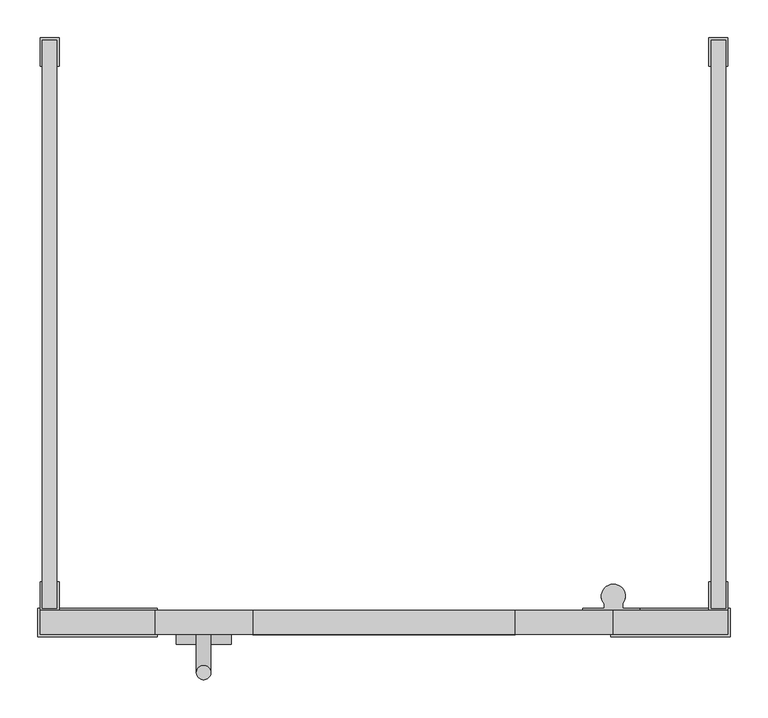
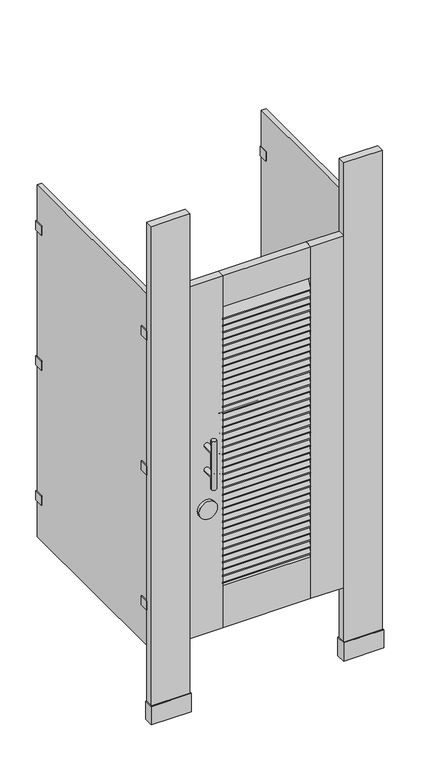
"""IFC4 building model written with IfcOpenShell, lengths in millimetres: proxy geometry."""

from ifc_helpers import new_model, si_unit, point, frame, frame_2d, origin, origin_with_axes, place, context, project, spatial, polyline, circle_curve, ellipse_curve, trimmed, segment, composite_curve, outline, extrude, source, transform, mapped, element, save
from ifc_brep_helpers import plane_surface, cylinder_surface, advanced_brep


def specialty_equipment_d81d8e88(model_context):
    return source(origin(), model_context, "Body", "SolidModel", [
        extrude(outline(polyline([(701.675, -758.825), (701.675, -796.925), (542.925, -796.925), (542.925, -758.825), (701.675, -758.825)])), origin_with_axes(), (0.0, 0.0, 1.0), 76.2),
        extrude(outline(polyline([(698.5, -762.0), (698.5, -793.75), (546.1, -793.75), (546.1, -762.0), (698.5, -762.0)])), origin_with_axes(), (0.0, 0.0, 1.0), 2082.8),
        extrude(outline(polyline([(-219.075, -758.825), (-60.325, -758.825), (-60.325, -796.925), (-219.075, -796.925), (-219.075, -758.825)])), origin_with_axes(), (0.0, 0.0, 1.0), 76.2),
        extrude(outline(polyline([(-215.9, -762.0), (-63.5, -762.0), (-63.5, -793.75), (-215.9, -793.75), (-215.9, -762.0)])), origin_with_axes(), (0.0, 0.0, 1.0), 2082.8),
        extrude(outline(composite_curve([segment(polyline([(-764.1333548, 1605.1687721), (-783.2892514, 1565.8933636)]), True, "CONTINUOUS"), segment(trimmed(circle_curve(frame_2d((-787.5697581, 1567.9811062)), 4.7625), [point((-783.2892514, 1565.8933636))], [point((-791.8502647, 1570.0688488))], False, "CARTESIAN"), True, "CONTINUOUS"), segment(polyline([(-791.8502647, 1570.0688488), (-772.6943681, 1609.3442573)]), True, "CONTINUOUS"), segment(trimmed(circle_curve(frame_2d((-768.4138614, 1607.2565147)), 4.7625), [point((-772.6943681, 1609.3442573))], [point((-764.1333548, 1605.1687721))], False, "CARTESIAN"), True, "CONTINUOUS")], self_intersect=False)), frame((66.675, 0.0, 0.0), z_axis=(1.0, 0.0, 0.0), x_axis=(0.0, 1.0, 0.0)), (0.0, 0.0, 1.0), 349.25),
        extrude(outline(composite_curve([segment(polyline([(-764.1333548, 1576.8525178), (-783.2892514, 1537.5771093)]), True, "CONTINUOUS"), segment(trimmed(circle_curve(frame_2d((-787.5697581, 1539.6648519)), 4.7625), [point((-783.2892514, 1537.5771093))], [point((-791.8502647, 1541.7525944))], False, "CARTESIAN"), True, "CONTINUOUS"), segment(polyline([(-791.8502647, 1541.7525944), (-772.6943681, 1581.0280029)]), True, "CONTINUOUS"), segment(trimmed(circle_curve(frame_2d((-768.4138614, 1578.9402604)), 4.7625), [point((-772.6943681, 1581.0280029))], [point((-764.1333548, 1576.8525178))], False, "CARTESIAN"), True, "CONTINUOUS")], self_intersect=False)), frame((66.675, 0.0, 0.0), z_axis=(1.0, 0.0, 0.0), x_axis=(0.0, 1.0, 0.0)), (0.0, 0.0, 1.0), 349.25),
        extrude(outline(composite_curve([segment(polyline([(-764.1333548, 1548.5362634), (-783.2892514, 1509.2608549)]), True, "CONTINUOUS"), segment(trimmed(circle_curve(frame_2d((-787.5697581, 1511.3485975)), 4.7625), [point((-783.2892514, 1509.2608549))], [point((-791.8502647, 1513.4363401))], False, "CARTESIAN"), True, "CONTINUOUS"), segment(polyline([(-791.8502647, 1513.4363401), (-772.6943681, 1552.7117486)]), True, "CONTINUOUS"), segment(trimmed(circle_curve(frame_2d((-768.4138614, 1550.624006)), 4.7625), [point((-772.6943681, 1552.7117486))], [point((-764.1333548, 1548.5362634))], False, "CARTESIAN"), True, "CONTINUOUS")], self_intersect=False)), frame((66.675, 0.0, 0.0), z_axis=(1.0, 0.0, 0.0), x_axis=(0.0, 1.0, 0.0)), (0.0, 0.0, 1.0), 349.25),
        extrude(outline(composite_curve([segment(polyline([(-764.1333548, 1520.220009), (-783.2892514, 1480.9446005)]), True, "CONTINUOUS"), segment(trimmed(circle_curve(frame_2d((-787.5697581, 1483.0323431)), 4.7625), [point((-783.2892514, 1480.9446005))], [point((-791.8502647, 1485.1200857))], False, "CARTESIAN"), True, "CONTINUOUS"), segment(polyline([(-791.8502647, 1485.1200857), (-772.6943681, 1524.3954942)]), True, "CONTINUOUS"), segment(trimmed(circle_curve(frame_2d((-768.4138614, 1522.3077516)), 4.7625), [point((-772.6943681, 1524.3954942))], [point((-764.1333548, 1520.220009))], False, "CARTESIAN"), True, "CONTINUOUS")], self_intersect=False)), frame((66.675, 0.0, 0.0), z_axis=(1.0, 0.0, 0.0), x_axis=(0.0, 1.0, 0.0)), (0.0, 0.0, 1.0), 349.25),
        extrude(outline(composite_curve([segment(polyline([(-764.1333548, 1491.9037547), (-783.2892514, 1452.6283462)]), True, "CONTINUOUS"), segment(trimmed(circle_curve(frame_2d((-787.5697581, 1454.7160888)), 4.7625), [point((-783.2892514, 1452.6283462))], [point((-791.8502647, 1456.8038313))], False, "CARTESIAN"), True, "CONTINUOUS"), segment(polyline([(-791.8502647, 1456.8038313), (-772.6943681, 1496.0792398)]), True, "CONTINUOUS"), segment(trimmed(circle_curve(frame_2d((-768.4138614, 1493.9914973)), 4.7625), [point((-772.6943681, 1496.0792398))], [point((-764.1333548, 1491.9037547))], False, "CARTESIAN"), True, "CONTINUOUS")], self_intersect=False)), frame((66.675, 0.0, 0.0), z_axis=(1.0, 0.0, 0.0), x_axis=(0.0, 1.0, 0.0)), (0.0, 0.0, 1.0), 349.25),
        extrude(outline(composite_curve([segment(polyline([(-764.1333548, 1463.5875003), (-783.2892514, 1424.3120918)]), True, "CONTINUOUS"), segment(trimmed(circle_curve(frame_2d((-787.5697581, 1426.3998344)), 4.7625), [point((-783.2892514, 1424.3120918))], [point((-791.8502647, 1428.487577))], False, "CARTESIAN"), True, "CONTINUOUS"), segment(polyline([(-791.8502647, 1428.487577), (-772.6943681, 1467.7629855)]), True, "CONTINUOUS"), segment(trimmed(circle_curve(frame_2d((-768.4138614, 1465.6752429)), 4.7625), [point((-772.6943681, 1467.7629855))], [point((-764.1333548, 1463.5875003))], False, "CARTESIAN"), True, "CONTINUOUS")], self_intersect=False)), frame((66.675, 0.0, 0.0), z_axis=(1.0, 0.0, 0.0), x_axis=(0.0, 1.0, 0.0)), (0.0, 0.0, 1.0), 349.25),
        extrude(outline(composite_curve([segment(polyline([(-764.1333548, 1435.2712459), (-783.2892514, 1395.9958374)]), True, "CONTINUOUS"), segment(trimmed(circle_curve(frame_2d((-787.5697581, 1398.08358)), 4.7625), [point((-783.2892514, 1395.9958374))], [point((-791.8502647, 1400.1713226))], False, "CARTESIAN"), True, "CONTINUOUS"), segment(polyline([(-791.8502647, 1400.1713226), (-772.6943681, 1439.4467311)]), True, "CONTINUOUS"), segment(trimmed(circle_curve(frame_2d((-768.4138614, 1437.3589885)), 4.7625), [point((-772.6943681, 1439.4467311))], [point((-764.1333548, 1435.2712459))], False, "CARTESIAN"), True, "CONTINUOUS")], self_intersect=False)), frame((66.675, 0.0, 0.0), z_axis=(1.0, 0.0, 0.0), x_axis=(0.0, 1.0, 0.0)), (0.0, 0.0, 1.0), 349.25),
        extrude(outline(composite_curve([segment(polyline([(-764.1333548, 1406.9549916), (-783.2892514, 1367.6795831)]), True, "CONTINUOUS"), segment(trimmed(circle_curve(frame_2d((-787.5697581, 1369.7673257)), 4.7625), [point((-783.2892514, 1367.6795831))], [point((-791.8502647, 1371.8550682))], False, "CARTESIAN"), True, "CONTINUOUS"), segment(polyline([(-791.8502647, 1371.8550682), (-772.6943681, 1411.1304767)]), True, "CONTINUOUS"), segment(trimmed(circle_curve(frame_2d((-768.4138614, 1409.0427342)), 4.7625), [point((-772.6943681, 1411.1304767))], [point((-764.1333548, 1406.9549916))], False, "CARTESIAN"), True, "CONTINUOUS")], self_intersect=False)), frame((66.675, 0.0, 0.0), z_axis=(1.0, 0.0, 0.0), x_axis=(0.0, 1.0, 0.0)), (0.0, 0.0, 1.0), 349.25),
        extrude(outline(composite_curve([segment(polyline([(-764.1333548, 1378.6387372), (-783.2892514, 1339.3633287)]), True, "CONTINUOUS"), segment(trimmed(circle_curve(frame_2d((-787.5697581, 1341.4510713)), 4.7625), [point((-783.2892514, 1339.3633287))], [point((-791.8502647, 1343.5388139))], False, "CARTESIAN"), True, "CONTINUOUS"), segment(polyline([(-791.8502647, 1343.5388139), (-772.6943681, 1382.8142224)]), True, "CONTINUOUS"), segment(trimmed(circle_curve(frame_2d((-768.4138614, 1380.7264798)), 4.7625), [point((-772.6943681, 1382.8142224))], [point((-764.1333548, 1378.6387372))], False, "CARTESIAN"), True, "CONTINUOUS")], self_intersect=False)), frame((66.675, 0.0, 0.0), z_axis=(1.0, 0.0, 0.0), x_axis=(0.0, 1.0, 0.0)), (0.0, 0.0, 1.0), 349.25),
        extrude(outline(composite_curve([segment(polyline([(-764.1333548, 1350.3224828), (-783.2892514, 1311.0470743)]), True, "CONTINUOUS"), segment(trimmed(circle_curve(frame_2d((-787.5697581, 1313.1348169)), 4.7625), [point((-783.2892514, 1311.0470743))], [point((-791.8502647, 1315.2225595))], False, "CARTESIAN"), True, "CONTINUOUS"), segment(polyline([(-791.8502647, 1315.2225595), (-772.6943681, 1354.497968)]), True, "CONTINUOUS"), segment(trimmed(circle_curve(frame_2d((-768.4138614, 1352.4102254)), 4.7625), [point((-772.6943681, 1354.497968))], [point((-764.1333548, 1350.3224828))], False, "CARTESIAN"), True, "CONTINUOUS")], self_intersect=False)), frame((66.675, 0.0, 0.0), z_axis=(1.0, 0.0, 0.0), x_axis=(0.0, 1.0, 0.0)), (0.0, 0.0, 1.0), 349.25),
        extrude(outline(composite_curve([segment(polyline([(-764.1333548, 1322.0062285), (-783.2892514, 1282.73082)]), True, "CONTINUOUS"), segment(trimmed(circle_curve(frame_2d((-787.5697581, 1284.8185626)), 4.7625), [point((-783.2892514, 1282.73082))], [point((-791.8502647, 1286.9063052))], False, "CARTESIAN"), True, "CONTINUOUS"), segment(polyline([(-791.8502647, 1286.9063052), (-772.6943681, 1326.1817137)]), True, "CONTINUOUS"), segment(trimmed(circle_curve(frame_2d((-768.4138614, 1324.0939711)), 4.7625), [point((-772.6943681, 1326.1817137))], [point((-764.1333548, 1322.0062285))], False, "CARTESIAN"), True, "CONTINUOUS")], self_intersect=False)), frame((66.675, 0.0, 0.0), z_axis=(1.0, 0.0, 0.0), x_axis=(0.0, 1.0, 0.0)), (0.0, 0.0, 1.0), 349.25),
        extrude(outline(composite_curve([segment(polyline([(-764.1333548, 1293.6899741), (-783.2892514, 1254.4145656)]), True, "CONTINUOUS"), segment(trimmed(circle_curve(frame_2d((-787.5697581, 1256.5023082)), 4.7625), [point((-783.2892514, 1254.4145656))], [point((-791.8502647, 1258.5900508))], False, "CARTESIAN"), True, "CONTINUOUS"), segment(polyline([(-791.8502647, 1258.5900508), (-772.6943681, 1297.8654593)]), True, "CONTINUOUS"), segment(trimmed(circle_curve(frame_2d((-768.4138614, 1295.7777167)), 4.7625), [point((-772.6943681, 1297.8654593))], [point((-764.1333548, 1293.6899741))], False, "CARTESIAN"), True, "CONTINUOUS")], self_intersect=False)), frame((66.675, 0.0, 0.0), z_axis=(1.0, 0.0, 0.0), x_axis=(0.0, 1.0, 0.0)), (0.0, 0.0, 1.0), 349.25),
        extrude(outline(composite_curve([segment(polyline([(-764.1333548, 1265.3737197), (-783.2892514, 1226.0983112)]), True, "CONTINUOUS"), segment(trimmed(circle_curve(frame_2d((-787.5697581, 1228.1860538)), 4.7625), [point((-783.2892514, 1226.0983112))], [point((-791.8502647, 1230.2737964))], False, "CARTESIAN"), True, "CONTINUOUS"), segment(polyline([(-791.8502647, 1230.2737964), (-772.6943681, 1269.5492049)]), True, "CONTINUOUS"), segment(trimmed(circle_curve(frame_2d((-768.4138614, 1267.4614623)), 4.7625), [point((-772.6943681, 1269.5492049))], [point((-764.1333548, 1265.3737197))], False, "CARTESIAN"), True, "CONTINUOUS")], self_intersect=False)), frame((66.675, 0.0, 0.0), z_axis=(1.0, 0.0, 0.0), x_axis=(0.0, 1.0, 0.0)), (0.0, 0.0, 1.0), 349.25),
        extrude(outline(composite_curve([segment(polyline([(-764.1333548, 1237.0574654), (-783.2892514, 1197.7820569)]), True, "CONTINUOUS"), segment(trimmed(circle_curve(frame_2d((-787.5697581, 1199.8697995)), 4.7625), [point((-783.2892514, 1197.7820569))], [point((-791.8502647, 1201.9575421))], False, "CARTESIAN"), True, "CONTINUOUS"), segment(polyline([(-791.8502647, 1201.9575421), (-772.6943681, 1241.2329506)]), True, "CONTINUOUS"), segment(trimmed(circle_curve(frame_2d((-768.4138614, 1239.145208)), 4.7625), [point((-772.6943681, 1241.2329506))], [point((-764.1333548, 1237.0574654))], False, "CARTESIAN"), True, "CONTINUOUS")], self_intersect=False)), frame((66.675, 0.0, 0.0), z_axis=(1.0, 0.0, 0.0), x_axis=(0.0, 1.0, 0.0)), (0.0, 0.0, 1.0), 349.25),
        extrude(outline(composite_curve([segment(polyline([(-764.1333548, 1208.741211), (-783.2892514, 1169.4658025)]), True, "CONTINUOUS"), segment(trimmed(circle_curve(frame_2d((-787.5697581, 1171.5535451)), 4.7625), [point((-783.2892514, 1169.4658025))], [point((-791.8502647, 1173.6412877))], False, "CARTESIAN"), True, "CONTINUOUS"), segment(polyline([(-791.8502647, 1173.6412877), (-772.6943681, 1212.9166962)]), True, "CONTINUOUS"), segment(trimmed(circle_curve(frame_2d((-768.4138614, 1210.8289536)), 4.7625), [point((-772.6943681, 1212.9166962))], [point((-764.1333548, 1208.741211))], False, "CARTESIAN"), True, "CONTINUOUS")], self_intersect=False)), frame((66.675, 0.0, 0.0), z_axis=(1.0, 0.0, 0.0), x_axis=(0.0, 1.0, 0.0)), (0.0, 0.0, 1.0), 349.25),
        extrude(outline(composite_curve([segment(polyline([(-764.1333548, 1180.4249567), (-783.2892514, 1141.1495482)]), True, "CONTINUOUS"), segment(trimmed(circle_curve(frame_2d((-787.5697581, 1143.2372907)), 4.7625), [point((-783.2892514, 1141.1495482))], [point((-791.8502647, 1145.3250333))], False, "CARTESIAN"), True, "CONTINUOUS"), segment(polyline([(-791.8502647, 1145.3250333), (-772.6943681, 1184.6004418)]), True, "CONTINUOUS"), segment(trimmed(circle_curve(frame_2d((-768.4138614, 1182.5126992)), 4.7625), [point((-772.6943681, 1184.6004418))], [point((-764.1333548, 1180.4249567))], False, "CARTESIAN"), True, "CONTINUOUS")], self_intersect=False)), frame((66.675, 0.0, 0.0), z_axis=(1.0, 0.0, 0.0), x_axis=(0.0, 1.0, 0.0)), (0.0, 0.0, 1.0), 349.25),
        extrude(outline(composite_curve([segment(polyline([(-764.1333548, 1152.1087023), (-783.2892514, 1112.8332938)]), True, "CONTINUOUS"), segment(trimmed(circle_curve(frame_2d((-787.5697581, 1114.9210364)), 4.7625), [point((-783.2892514, 1112.8332938))], [point((-791.8502647, 1117.008779))], False, "CARTESIAN"), True, "CONTINUOUS"), segment(polyline([(-791.8502647, 1117.008779), (-772.6943681, 1156.2841875)]), True, "CONTINUOUS"), segment(trimmed(circle_curve(frame_2d((-768.4138614, 1154.1964449)), 4.7625), [point((-772.6943681, 1156.2841875))], [point((-764.1333548, 1152.1087023))], False, "CARTESIAN"), True, "CONTINUOUS")], self_intersect=False)), frame((66.675, 0.0, 0.0), z_axis=(1.0, 0.0, 0.0), x_axis=(0.0, 1.0, 0.0)), (0.0, 0.0, 1.0), 349.25),
        extrude(outline(composite_curve([segment(polyline([(-764.1333548, 1123.7924479), (-783.2892514, 1084.5170394)]), True, "CONTINUOUS"), segment(trimmed(circle_curve(frame_2d((-787.5697581, 1086.604782)), 4.7625), [point((-783.2892514, 1084.5170394))], [point((-791.8502647, 1088.6925246))], False, "CARTESIAN"), True, "CONTINUOUS"), segment(polyline([(-791.8502647, 1088.6925246), (-772.6943681, 1127.9679331)]), True, "CONTINUOUS"), segment(trimmed(circle_curve(frame_2d((-768.4138614, 1125.8801905)), 4.7625), [point((-772.6943681, 1127.9679331))], [point((-764.1333548, 1123.7924479))], False, "CARTESIAN"), True, "CONTINUOUS")], self_intersect=False)), frame((66.675, 0.0, 0.0), z_axis=(1.0, 0.0, 0.0), x_axis=(0.0, 1.0, 0.0)), (0.0, 0.0, 1.0), 349.25),
        extrude(outline(composite_curve([segment(polyline([(-764.1333548, 1095.4761936), (-783.2892514, 1056.2007851)]), True, "CONTINUOUS"), segment(trimmed(circle_curve(frame_2d((-787.5697581, 1058.2885276)), 4.7625), [point((-783.2892514, 1056.2007851))], [point((-791.8502647, 1060.3762702))], False, "CARTESIAN"), True, "CONTINUOUS"), segment(polyline([(-791.8502647, 1060.3762702), (-772.6943681, 1099.6516787)]), True, "CONTINUOUS"), segment(trimmed(circle_curve(frame_2d((-768.4138614, 1097.5639361)), 4.7625), [point((-772.6943681, 1099.6516787))], [point((-764.1333548, 1095.4761936))], False, "CARTESIAN"), True, "CONTINUOUS")], self_intersect=False)), frame((66.675, 0.0, 0.0), z_axis=(1.0, 0.0, 0.0), x_axis=(0.0, 1.0, 0.0)), (0.0, 0.0, 1.0), 349.25),
        extrude(outline(composite_curve([segment(polyline([(-764.1333548, 1067.1599392), (-783.2892514, 1027.8845307)]), True, "CONTINUOUS"), segment(trimmed(circle_curve(frame_2d((-787.5697581, 1029.9722733)), 4.7625), [point((-783.2892514, 1027.8845307))], [point((-791.8502647, 1032.0600159))], False, "CARTESIAN"), True, "CONTINUOUS"), segment(polyline([(-791.8502647, 1032.0600159), (-772.6943681, 1071.3354244)]), True, "CONTINUOUS"), segment(trimmed(circle_curve(frame_2d((-768.4138614, 1069.2476818)), 4.7625), [point((-772.6943681, 1071.3354244))], [point((-764.1333548, 1067.1599392))], False, "CARTESIAN"), True, "CONTINUOUS")], self_intersect=False)), frame((66.675, 0.0, 0.0), z_axis=(1.0, 0.0, 0.0), x_axis=(0.0, 1.0, 0.0)), (0.0, 0.0, 1.0), 349.25),
        extrude(outline(composite_curve([segment(polyline([(-764.1333548, 1038.8436848), (-783.2892514, 999.5682763)]), True, "CONTINUOUS"), segment(trimmed(circle_curve(frame_2d((-787.5697581, 1001.6560189)), 4.7625), [point((-783.2892514, 999.5682763))], [point((-791.8502647, 1003.7437615))], False, "CARTESIAN"), True, "CONTINUOUS"), segment(polyline([(-791.8502647, 1003.7437615), (-772.6943681, 1043.01917)]), True, "CONTINUOUS"), segment(trimmed(circle_curve(frame_2d((-768.4138614, 1040.9314274)), 4.7625), [point((-772.6943681, 1043.01917))], [point((-764.1333548, 1038.8436848))], False, "CARTESIAN"), True, "CONTINUOUS")], self_intersect=False)), frame((66.675, 0.0, 0.0), z_axis=(1.0, 0.0, 0.0), x_axis=(0.0, 1.0, 0.0)), (0.0, 0.0, 1.0), 349.25),
        extrude(outline(composite_curve([segment(polyline([(-764.1333548, 1010.5274305), (-783.2892514, 971.252022)]), True, "CONTINUOUS"), segment(trimmed(circle_curve(frame_2d((-787.5697581, 973.3397645)), 4.7625), [point((-783.2892514, 971.252022))], [point((-791.8502647, 975.4275071))], False, "CARTESIAN"), True, "CONTINUOUS"), segment(polyline([(-791.8502647, 975.4275071), (-772.6943681, 1014.7029156)]), True, "CONTINUOUS"), segment(trimmed(circle_curve(frame_2d((-768.4138614, 1012.615173)), 4.7625), [point((-772.6943681, 1014.7029156))], [point((-764.1333548, 1010.5274305))], False, "CARTESIAN"), True, "CONTINUOUS")], self_intersect=False)), frame((66.675, 0.0, 0.0), z_axis=(1.0, 0.0, 0.0), x_axis=(0.0, 1.0, 0.0)), (0.0, 0.0, 1.0), 349.25),
        extrude(outline(composite_curve([segment(polyline([(-764.1333548, 982.2111761), (-783.2892514, 942.9357676)]), True, "CONTINUOUS"), segment(trimmed(circle_curve(frame_2d((-787.5697581, 945.0235102)), 4.7625), [point((-783.2892514, 942.9357676))], [point((-791.8502647, 947.1112528))], False, "CARTESIAN"), True, "CONTINUOUS"), segment(polyline([(-791.8502647, 947.1112528), (-772.6943681, 986.3866613)]), True, "CONTINUOUS"), segment(trimmed(circle_curve(frame_2d((-768.4138614, 984.2989187)), 4.7625), [point((-772.6943681, 986.3866613))], [point((-764.1333548, 982.2111761))], False, "CARTESIAN"), True, "CONTINUOUS")], self_intersect=False)), frame((66.675, 0.0, 0.0), z_axis=(1.0, 0.0, 0.0), x_axis=(0.0, 1.0, 0.0)), (0.0, 0.0, 1.0), 349.25),
        extrude(outline(composite_curve([segment(polyline([(-764.1333548, 953.8949217), (-783.2892514, 914.6195132)]), True, "CONTINUOUS"), segment(trimmed(circle_curve(frame_2d((-787.5697581, 916.7072558)), 4.7625), [point((-783.2892514, 914.6195132))], [point((-791.8502647, 918.7949984))], False, "CARTESIAN"), True, "CONTINUOUS"), segment(polyline([(-791.8502647, 918.7949984), (-772.6943681, 958.0704069)]), True, "CONTINUOUS"), segment(trimmed(circle_curve(frame_2d((-768.4138614, 955.9826643)), 4.7625), [point((-772.6943681, 958.0704069))], [point((-764.1333548, 953.8949217))], False, "CARTESIAN"), True, "CONTINUOUS")], self_intersect=False)), frame((66.675, 0.0, 0.0), z_axis=(1.0, 0.0, 0.0), x_axis=(0.0, 1.0, 0.0)), (0.0, 0.0, 1.0), 349.25),
        extrude(outline(composite_curve([segment(polyline([(-764.1333548, 925.5786674), (-783.2892514, 886.3032589)]), True, "CONTINUOUS"), segment(trimmed(circle_curve(frame_2d((-787.5697581, 888.3910014)), 4.7625), [point((-783.2892514, 886.3032589))], [point((-791.8502647, 890.478744))], False, "CARTESIAN"), True, "CONTINUOUS"), segment(polyline([(-791.8502647, 890.478744), (-772.6943681, 929.7541525)]), True, "CONTINUOUS"), segment(trimmed(circle_curve(frame_2d((-768.4138614, 927.6664099)), 4.7625), [point((-772.6943681, 929.7541525))], [point((-764.1333548, 925.5786674))], False, "CARTESIAN"), True, "CONTINUOUS")], self_intersect=False)), frame((66.675, 0.0, 0.0), z_axis=(1.0, 0.0, 0.0), x_axis=(0.0, 1.0, 0.0)), (0.0, 0.0, 1.0), 349.25),
        extrude(outline(composite_curve([segment(polyline([(-764.1333548, 897.262413), (-783.2892514, 857.9870045)]), True, "CONTINUOUS"), segment(trimmed(circle_curve(frame_2d((-787.5697581, 860.0747471)), 4.7625), [point((-783.2892514, 857.9870045))], [point((-791.8502647, 862.1624897))], False, "CARTESIAN"), True, "CONTINUOUS"), segment(polyline([(-791.8502647, 862.1624897), (-772.6943681, 901.4378982)]), True, "CONTINUOUS"), segment(trimmed(circle_curve(frame_2d((-768.4138614, 899.3501556)), 4.7625), [point((-772.6943681, 901.4378982))], [point((-764.1333548, 897.262413))], False, "CARTESIAN"), True, "CONTINUOUS")], self_intersect=False)), frame((66.675, 0.0, 0.0), z_axis=(1.0, 0.0, 0.0), x_axis=(0.0, 1.0, 0.0)), (0.0, 0.0, 1.0), 349.25),
        extrude(outline(composite_curve([segment(polyline([(-764.1333548, 868.9461586), (-783.2892514, 829.6707501)]), True, "CONTINUOUS"), segment(trimmed(circle_curve(frame_2d((-787.5697581, 831.7584927)), 4.7625), [point((-783.2892514, 829.6707501))], [point((-791.8502647, 833.8462353))], False, "CARTESIAN"), True, "CONTINUOUS"), segment(polyline([(-791.8502647, 833.8462353), (-772.6943681, 873.1216438)]), True, "CONTINUOUS"), segment(trimmed(circle_curve(frame_2d((-768.4138614, 871.0339012)), 4.7625), [point((-772.6943681, 873.1216438))], [point((-764.1333548, 868.9461586))], False, "CARTESIAN"), True, "CONTINUOUS")], self_intersect=False)), frame((66.675, 0.0, 0.0), z_axis=(1.0, 0.0, 0.0), x_axis=(0.0, 1.0, 0.0)), (0.0, 0.0, 1.0), 349.25),
        extrude(outline(composite_curve([segment(polyline([(-764.1333548, 840.6299043), (-783.2892514, 801.3544958)]), True, "CONTINUOUS"), segment(trimmed(circle_curve(frame_2d((-787.5697581, 803.4422384)), 4.7625), [point((-783.2892514, 801.3544958))], [point((-791.8502647, 805.5299809))], False, "CARTESIAN"), True, "CONTINUOUS"), segment(polyline([(-791.8502647, 805.5299809), (-772.6943681, 844.8053894)]), True, "CONTINUOUS"), segment(trimmed(circle_curve(frame_2d((-768.4138614, 842.7176469)), 4.7625), [point((-772.6943681, 844.8053894))], [point((-764.1333548, 840.6299043))], False, "CARTESIAN"), True, "CONTINUOUS")], self_intersect=False)), frame((66.675, 0.0, 0.0), z_axis=(1.0, 0.0, 0.0), x_axis=(0.0, 1.0, 0.0)), (0.0, 0.0, 1.0), 349.25),
        extrude(outline(composite_curve([segment(polyline([(-764.1333548, 812.3136499), (-783.2892514, 773.0382414)]), True, "CONTINUOUS"), segment(trimmed(circle_curve(frame_2d((-787.5697581, 775.125984)), 4.7625), [point((-783.2892514, 773.0382414))], [point((-791.8502647, 777.2137266))], False, "CARTESIAN"), True, "CONTINUOUS"), segment(polyline([(-791.8502647, 777.2137266), (-772.6943681, 816.4891351)]), True, "CONTINUOUS"), segment(trimmed(circle_curve(frame_2d((-768.4138614, 814.4013925)), 4.7625), [point((-772.6943681, 816.4891351))], [point((-764.1333548, 812.3136499))], False, "CARTESIAN"), True, "CONTINUOUS")], self_intersect=False)), frame((66.675, 0.0, 0.0), z_axis=(1.0, 0.0, 0.0), x_axis=(0.0, 1.0, 0.0)), (0.0, 0.0, 1.0), 349.25),
        extrude(outline(composite_curve([segment(polyline([(-764.1333548, 783.9973955), (-783.2892514, 744.721987)]), True, "CONTINUOUS"), segment(trimmed(circle_curve(frame_2d((-787.5697581, 746.8097296)), 4.7625), [point((-783.2892514, 744.721987))], [point((-791.8502647, 748.8974722))], False, "CARTESIAN"), True, "CONTINUOUS"), segment(polyline([(-791.8502647, 748.8974722), (-772.6943681, 788.1728807)]), True, "CONTINUOUS"), segment(trimmed(circle_curve(frame_2d((-768.4138614, 786.0851381)), 4.7625), [point((-772.6943681, 788.1728807))], [point((-764.1333548, 783.9973955))], False, "CARTESIAN"), True, "CONTINUOUS")], self_intersect=False)), frame((66.675, 0.0, 0.0), z_axis=(1.0, 0.0, 0.0), x_axis=(0.0, 1.0, 0.0)), (0.0, 0.0, 1.0), 349.25),
        extrude(outline(composite_curve([segment(polyline([(-764.1333548, 755.6811412), (-783.2892514, 716.4057327)]), True, "CONTINUOUS"), segment(trimmed(circle_curve(frame_2d((-787.5697581, 718.4934753)), 4.7625), [point((-783.2892514, 716.4057327))], [point((-791.8502647, 720.5812178))], False, "CARTESIAN"), True, "CONTINUOUS"), segment(polyline([(-791.8502647, 720.5812178), (-772.6943681, 759.8566263)]), True, "CONTINUOUS"), segment(trimmed(circle_curve(frame_2d((-768.4138614, 757.7688838)), 4.7625), [point((-772.6943681, 759.8566263))], [point((-764.1333548, 755.6811412))], False, "CARTESIAN"), True, "CONTINUOUS")], self_intersect=False)), frame((66.675, 0.0, 0.0), z_axis=(1.0, 0.0, 0.0), x_axis=(0.0, 1.0, 0.0)), (0.0, 0.0, 1.0), 349.25),
        extrude(outline(composite_curve([segment(polyline([(-764.1333548, 727.3648868), (-783.2892514, 688.0894783)]), True, "CONTINUOUS"), segment(trimmed(circle_curve(frame_2d((-787.5697581, 690.1772209)), 4.7625), [point((-783.2892514, 688.0894783))], [point((-791.8502647, 692.2649635))], False, "CARTESIAN"), True, "CONTINUOUS"), segment(polyline([(-791.8502647, 692.2649635), (-772.6943681, 731.540372)]), True, "CONTINUOUS"), segment(trimmed(circle_curve(frame_2d((-768.4138614, 729.4526294)), 4.7625), [point((-772.6943681, 731.540372))], [point((-764.1333548, 727.3648868))], False, "CARTESIAN"), True, "CONTINUOUS")], self_intersect=False)), frame((66.675, 0.0, 0.0), z_axis=(1.0, 0.0, 0.0), x_axis=(0.0, 1.0, 0.0)), (0.0, 0.0, 1.0), 349.25),
        extrude(outline(composite_curve([segment(polyline([(-764.1333548, 699.0486324), (-783.2892514, 659.7732239)]), True, "CONTINUOUS"), segment(trimmed(circle_curve(frame_2d((-787.5697581, 661.8609665)), 4.7625), [point((-783.2892514, 659.7732239))], [point((-791.8502647, 663.9487091))], False, "CARTESIAN"), True, "CONTINUOUS"), segment(polyline([(-791.8502647, 663.9487091), (-772.6943681, 703.2241176)]), True, "CONTINUOUS"), segment(trimmed(circle_curve(frame_2d((-768.4138614, 701.136375)), 4.7625), [point((-772.6943681, 703.2241176))], [point((-764.1333548, 699.0486324))], False, "CARTESIAN"), True, "CONTINUOUS")], self_intersect=False)), frame((66.675, 0.0, 0.0), z_axis=(1.0, 0.0, 0.0), x_axis=(0.0, 1.0, 0.0)), (0.0, 0.0, 1.0), 349.25),
        extrude(outline(composite_curve([segment(polyline([(-764.1333548, 670.7323781), (-783.2892514, 631.4569696)]), True, "CONTINUOUS"), segment(trimmed(circle_curve(frame_2d((-787.5697581, 633.5447122)), 4.7625), [point((-783.2892514, 631.4569696))], [point((-791.8502647, 635.6324547))], False, "CARTESIAN"), True, "CONTINUOUS"), segment(polyline([(-791.8502647, 635.6324547), (-772.6943681, 674.9078632)]), True, "CONTINUOUS"), segment(trimmed(circle_curve(frame_2d((-768.4138614, 672.8201207)), 4.7625), [point((-772.6943681, 674.9078632))], [point((-764.1333548, 670.7323781))], False, "CARTESIAN"), True, "CONTINUOUS")], self_intersect=False)), frame((66.675, 0.0, 0.0), z_axis=(1.0, 0.0, 0.0), x_axis=(0.0, 1.0, 0.0)), (0.0, 0.0, 1.0), 349.25),
        extrude(outline(composite_curve([segment(polyline([(-764.1333548, 642.4161237), (-783.2892514, 603.1407152)]), True, "CONTINUOUS"), segment(trimmed(circle_curve(frame_2d((-787.5697581, 605.2284578)), 4.7625), [point((-783.2892514, 603.1407152))], [point((-791.8502647, 607.3162004))], False, "CARTESIAN"), True, "CONTINUOUS"), segment(polyline([(-791.8502647, 607.3162004), (-772.6943681, 646.5916089)]), True, "CONTINUOUS"), segment(trimmed(circle_curve(frame_2d((-768.4138614, 644.5038663)), 4.7625), [point((-772.6943681, 646.5916089))], [point((-764.1333548, 642.4161237))], False, "CARTESIAN"), True, "CONTINUOUS")], self_intersect=False)), frame((66.675, 0.0, 0.0), z_axis=(1.0, 0.0, 0.0), x_axis=(0.0, 1.0, 0.0)), (0.0, 0.0, 1.0), 349.25),
        extrude(outline(composite_curve([segment(polyline([(-764.1333548, 614.0998693), (-783.2892514, 574.8244608)]), True, "CONTINUOUS"), segment(trimmed(circle_curve(frame_2d((-787.5697581, 576.9122034)), 4.7625), [point((-783.2892514, 574.8244608))], [point((-791.8502647, 578.999946))], False, "CARTESIAN"), True, "CONTINUOUS"), segment(polyline([(-791.8502647, 578.999946), (-772.6943681, 618.2753545)]), True, "CONTINUOUS"), segment(trimmed(circle_curve(frame_2d((-768.4138614, 616.1876119)), 4.7625), [point((-772.6943681, 618.2753545))], [point((-764.1333548, 614.0998693))], False, "CARTESIAN"), True, "CONTINUOUS")], self_intersect=False)), frame((66.675, 0.0, 0.0), z_axis=(1.0, 0.0, 0.0), x_axis=(0.0, 1.0, 0.0)), (0.0, 0.0, 1.0), 349.25),
        extrude(outline(composite_curve([segment(polyline([(-764.1333548, 585.783615), (-783.2892514, 546.5082065)]), True, "CONTINUOUS"), segment(trimmed(circle_curve(frame_2d((-787.5697581, 548.5959491)), 4.7625), [point((-783.2892514, 546.5082065))], [point((-791.8502647, 550.6836917))], False, "CARTESIAN"), True, "CONTINUOUS"), segment(polyline([(-791.8502647, 550.6836917), (-772.6943681, 589.9591001)]), True, "CONTINUOUS"), segment(trimmed(circle_curve(frame_2d((-768.4138614, 587.8713576)), 4.7625), [point((-772.6943681, 589.9591001))], [point((-764.1333548, 585.783615))], False, "CARTESIAN"), True, "CONTINUOUS")], self_intersect=False)), frame((66.675, 0.0, 0.0), z_axis=(1.0, 0.0, 0.0), x_axis=(0.0, 1.0, 0.0)), (0.0, 0.0, 1.0), 349.25),
        extrude(outline(composite_curve([segment(polyline([(-764.1333548, 557.4673606), (-783.2892514, 518.1919521)]), True, "CONTINUOUS"), segment(trimmed(circle_curve(frame_2d((-787.5697581, 520.2796947)), 4.7625), [point((-783.2892514, 518.1919521))], [point((-791.8502647, 522.3674373))], False, "CARTESIAN"), True, "CONTINUOUS"), segment(polyline([(-791.8502647, 522.3674373), (-772.6943681, 561.6428458)]), True, "CONTINUOUS"), segment(trimmed(circle_curve(frame_2d((-768.4138614, 559.5551032)), 4.7625), [point((-772.6943681, 561.6428458))], [point((-764.1333548, 557.4673606))], False, "CARTESIAN"), True, "CONTINUOUS")], self_intersect=False)), frame((66.675, 0.0, 0.0), z_axis=(1.0, 0.0, 0.0), x_axis=(0.0, 1.0, 0.0)), (0.0, 0.0, 1.0), 349.25),
        extrude(outline(composite_curve([segment(polyline([(-764.1333548, 1633.4850265), (-783.2892514, 1594.209618)]), True, "CONTINUOUS"), segment(trimmed(circle_curve(frame_2d((-787.5697581, 1596.2973606)), 4.7625), [point((-783.2892514, 1594.209618))], [point((-791.8502647, 1598.3851032))], False, "CARTESIAN"), True, "CONTINUOUS"), segment(polyline([(-791.8502647, 1598.3851032), (-772.6943681, 1637.6605117)]), True, "CONTINUOUS"), segment(trimmed(circle_curve(frame_2d((-768.4138614, 1635.5727691)), 4.7625), [point((-772.6943681, 1637.6605117))], [point((-764.1333548, 1633.4850265))], False, "CARTESIAN"), True, "CONTINUOUS")], self_intersect=False)), frame((66.675, 0.0, 0.0), z_axis=(1.0, 0.0, 0.0), x_axis=(0.0, 1.0, 0.0)), (0.0, 0.0, 1.0), 349.25),
        extrude(outline(composite_curve([segment(polyline([(-764.1333548, 529.1511062), (-783.2892514, 489.8756977)]), True, "CONTINUOUS"), segment(trimmed(circle_curve(frame_2d((-787.5697581, 491.9634403)), 4.7625), [point((-783.2892514, 489.8756977))], [point((-791.8502647, 494.0511829))], False, "CARTESIAN"), True, "CONTINUOUS"), segment(polyline([(-791.8502647, 494.0511829), (-772.6943681, 533.3265914)]), True, "CONTINUOUS"), segment(trimmed(circle_curve(frame_2d((-768.4138614, 531.2388488)), 4.7625), [point((-772.6943681, 533.3265914))], [point((-764.1333548, 529.1511062))], False, "CARTESIAN"), True, "CONTINUOUS")], self_intersect=False)), frame((66.675, 0.0, 0.0), z_axis=(1.0, 0.0, 0.0), x_axis=(0.0, 1.0, 0.0)), (0.0, 0.0, 1.0), 349.25),
        extrude(outline(polyline([(66.675, -762.0), (66.675, -793.75), (-63.5, -793.75), (-63.5, -762.0), (66.675, -762.0)])), frame((0.0, 0.0, 304.8), z_axis=(0.0, 0.0, 1.0), x_axis=(1.0, 0.0, 0.0)), (0.0, 0.0, 1.0), 1473.2),
        extrude(outline(polyline([(415.925, -762.0), (546.1, -762.0), (546.1, -793.75), (415.925, -793.75), (415.925, -762.0)])), frame((0.0, 0.0, 304.8), z_axis=(0.0, 0.0, 1.0), x_axis=(1.0, 0.0, 0.0)), (0.0, 0.0, 1.0), 1473.2),
        extrude(outline(polyline([(415.925, -762.0), (415.925, -793.75), (66.675, -793.75), (66.675, -762.0), (415.925, -762.0)])), frame((0.0, 0.0, 1647.825), z_axis=(0.0, 0.0, 1.0), x_axis=(1.0, 0.0, 0.0)), (0.0, 0.0, 1.0), 130.175),
        extrude(outline(polyline([(415.925, -762.0), (415.925, -793.75), (66.675, -793.75), (66.675, -762.0), (415.925, -762.0)])), frame((0.0, 0.0, 304.8), z_axis=(0.0, 0.0, 1.0), x_axis=(1.0, 0.0, 0.0)), (0.0, 0.0, 1.0), 174.625),
        extrude(outline(composite_curve([segment(trimmed(circle_curve(frame_2d((827.0875, 1.5875)), 36.5125), [point((827.0875, -34.925))], [point((827.0875, 38.1))], False, "CARTESIAN"), True, "CONTINUOUS"), segment(trimmed(circle_curve(frame_2d((827.0875, 1.5875)), 36.5125), [point((827.0875, 38.1))], [point((827.0875, -34.925))], False, "CARTESIAN"), True, "CONTINUOUS")], self_intersect=False)), frame((0.0, -806.45, 0.0), z_axis=(0.0, 1.0, 0.0), x_axis=(0.0, 0.0, 1.0)), (0.0, 0.0, 1.0), 12.7),
        advanced_brep(
        [(-7.9375, -793.75, 1092.2), (11.1125, -793.75, 1092.2), (-7.9375, -793.75, 990.6), (11.1125, -793.75, 990.6), (11.1125, -844.55, 1092.2), (-7.9375, -844.55, 1092.2), (11.1125, -844.55, 990.6), (-7.9375, -844.55, 990.6), (-7.9375, -844.55, 1143.0), (11.1125, -844.55, 1143.0), (-7.9375, -844.55, 939.8), (11.1125, -844.55, 939.8)],
        [
            (0, 1, circle_curve(frame((1.5875, -793.75, 1092.2), z_axis=(0.0, 1.0, 0.0), x_axis=(1.0, 0.0, 0.0)), 9.525)),
            (1, 0, circle_curve(frame((1.5875, -793.75, 1092.2), z_axis=(0.0, 1.0, 0.0), x_axis=(1.0, 0.0, 0.0)), 9.525)),
            (2, 3, circle_curve(frame((1.5875, -793.75, 990.6), z_axis=(0.0, 1.0, 0.0), x_axis=(1.0, 0.0, 0.0)), 9.525)),
            (3, 2, circle_curve(frame((1.5875, -793.75, 990.6), z_axis=(0.0, 1.0, 0.0), x_axis=(1.0, 0.0, 0.0)), 9.525)),
            (1, 4),
            (4, 5, ellipse_curve(frame((1.5875, -844.55, 1092.2), z_axis=(0.0, 0.7071067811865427, 0.7071067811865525), x_axis=(0.0, -0.7071067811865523, 0.7071067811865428)), 13.4703842, 9.525)),
            (5, 0),
            (5, 4, ellipse_curve(frame((1.5875, -844.55, 1092.2), z_axis=(0.0, 0.7071067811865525, -0.7071067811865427), x_axis=(0.0, -0.7071067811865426, -0.7071067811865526)), 13.4703842, 9.525)),
            (3, 6),
            (6, 7, ellipse_curve(frame((1.5875, -844.55, 990.6), z_axis=(0.0, 0.7071067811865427, 0.7071067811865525), x_axis=(0.0, -0.7071067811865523, 0.7071067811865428)), 13.4703842, 9.525)),
            (7, 2),
            (7, 6, ellipse_curve(frame((1.5875, -844.55, 990.6), z_axis=(0.0, 0.7071067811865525, -0.7071067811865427), x_axis=(0.0, -0.7071067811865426, -0.7071067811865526)), 13.4703842, 9.525)),
            (8, 9, circle_curve(frame((1.5875, -844.55, 1143.0), z_axis=(0.0, 0.0, 1.0), x_axis=(1.0, 0.0, 0.0)), 9.525)),
            (9, 8, circle_curve(frame((1.5875, -844.55, 1143.0), z_axis=(0.0, 0.0, 1.0), x_axis=(1.0, 0.0, 0.0)), 9.525)),
            (10, 11, circle_curve(frame((1.5875, -844.55, 939.8), z_axis=(0.0, 0.0, -1.0), x_axis=(1.0, 0.0, 0.0)), 9.525)),
            (11, 10, circle_curve(frame((1.5875, -844.55, 939.8), z_axis=(0.0, 0.0, -1.0), x_axis=(1.0, 0.0, 0.0)), 9.525)),
            (8, 5),
            (5, 7),
            (7, 10),
            (11, 6),
            (6, 4),
            (4, 9),
        ],
        [
            plane_surface(frame((11.1125, -793.75, 1092.2), z_axis=(0.0, 1.0, 0.0), x_axis=(0.0, 0.0, -1.0))),
            cylinder_surface(frame((1.5875, -793.75, 1092.2), z_axis=(0.0, -1.0, 0.0), x_axis=(1.0, 0.0, 0.0)), 9.525),
            cylinder_surface(frame((1.5875, -793.75, 990.6), z_axis=(0.0, -1.0, 0.0), x_axis=(1.0, 0.0, 0.0)), 9.525),
            plane_surface(frame((11.1125, -844.55, 1143.0), z_axis=(0.0, 0.0, 1.0), x_axis=(0.0, 1.0, 0.0))),
            plane_surface(frame((11.1125, -844.55, 939.8), z_axis=(0.0, 0.0, -1.0), x_axis=(0.0, -1.0, 0.0))),
            cylinder_surface(frame((1.5875, -844.55, 939.8), z_axis=(0.0, 0.0, 1.0), x_axis=(1.0, 0.0, 0.0)), 9.525),
        ],
        [
            (0, [[1, 2]]),
            (0, [[3, 4]]),
            (1, [[-2, 5, 6, 7]]),
            (1, [[-1, -7, 8, -5]]),
            (2, [[-4, 9, 10, 11]]),
            (2, [[-3, -11, 12, -9]]),
            (3, [[13, 14]]),
            (4, [[15, 16]]),
            (5, [[-13, 17, 18, 19, -16, 20, 21, 22]]),
            (5, [[-14, -22, -8, -17]]),
            (5, [[-15, -19, -10, -20]]),
            (5, [[-18, -6, -21, -12]]),
        ],
    ),
        extrude(outline(composite_curve([segment(polyline([(581.3737081, -762.0), (505.1737081, -762.0), (505.1737081, -758.825), (533.7487081, -758.825), (533.7487081, -752.9581331)]), True, "CONTINUOUS"), segment(trimmed(circle_curve(frame_2d((546.1, -742.8902139)), 15.9347861), [point((533.7487081, -752.9581331))], [point((558.4512919, -752.9581331))], False, "CARTESIAN"), True, "CONTINUOUS"), segment(polyline([(558.4512919, -752.9581331), (558.4512919, -758.825), (581.3737081, -758.825), (581.3737081, -762.0)]), True, "CONTINUOUS")], self_intersect=False)), frame((0.0, 0.0, 1574.8), z_axis=(0.0, 0.0, 1.0), x_axis=(1.0, 0.0, 0.0)), (0.0, 0.0, 1.0), 63.5),
        extrude(outline(composite_curve([segment(polyline([(581.3737081, -762.0), (505.1737081, -762.0), (505.1737081, -758.825), (533.7487081, -758.825), (533.7487081, -752.9581331)]), True, "CONTINUOUS"), segment(trimmed(circle_curve(frame_2d((546.1, -742.8902139)), 15.9347861), [point((533.7487081, -752.9581331))], [point((558.4512919, -752.9581331))], False, "CARTESIAN"), True, "CONTINUOUS"), segment(polyline([(558.4512919, -752.9581331), (558.4512919, -758.825), (581.3737081, -758.825), (581.3737081, -762.0)]), True, "CONTINUOUS")], self_intersect=False)), frame((0.0, 0.0, 1009.6500001), z_axis=(0.0, 0.0, 1.0), x_axis=(1.0, 0.0, 0.0)), (0.0, 0.0, 1.0), 63.5),
        extrude(outline(composite_curve([segment(polyline([(581.3737081, -762.0), (505.1737081, -762.0), (505.1737081, -758.825), (533.7487081, -758.825), (533.7487081, -752.9581331)]), True, "CONTINUOUS"), segment(trimmed(circle_curve(frame_2d((546.1, -742.8902139)), 15.9347861), [point((533.7487081, -752.9581331))], [point((558.4512919, -752.9581331))], False, "CARTESIAN"), True, "CONTINUOUS"), segment(polyline([(558.4512919, -752.9581331), (558.4512919, -758.825), (581.3737081, -758.825), (581.3737081, -762.0)]), True, "CONTINUOUS")], self_intersect=False)), frame((0.0, 0.0, 444.5), z_axis=(0.0, 0.0, 1.0), x_axis=(1.0, 0.0, 0.0)), (0.0, 0.0, 1.0), 63.5),
        extrude(outline(polyline([(676.148, -723.9), (676.148, -758.825), (695.198, -758.825), (695.198, -723.9), (698.373, -723.9), (698.373, -762.0), (672.973, -762.0), (672.973, -723.9), (676.148, -723.9)])), frame((0.0, 0.0, 1587.8188137), z_axis=(0.0, 0.0, 1.0), x_axis=(1.0, 0.0, 0.0)), (0.0, 0.0, 1.0), 38.1),
        extrude(outline(polyline([(676.148, -38.1), (672.973, -38.1), (672.973, 0.0), (698.373, 0.0), (698.373, -38.1), (695.198, -38.1), (695.198, -3.175), (676.148, -3.175), (676.148, -38.1)])), frame((0.0, 0.0, 1587.8188137), z_axis=(0.0, 0.0, 1.0), x_axis=(1.0, 0.0, 0.0)), (0.0, 0.0, 1.0), 38.1),
        extrude(outline(polyline([(676.148, -723.9), (676.148, -758.825), (695.198, -758.825), (695.198, -723.9), (698.373, -723.9), (698.373, -762.0), (672.973, -762.0), (672.973, -723.9), (676.148, -723.9)])), frame((0.0, 0.0, 1022.35), z_axis=(0.0, 0.0, 1.0), x_axis=(1.0, 0.0, 0.0)), (0.0, 0.0, 1.0), 38.1),
        extrude(outline(polyline([(676.148, -38.1), (672.973, -38.1), (672.973, 0.0), (698.373, 0.0), (698.373, -38.1), (695.198, -38.1), (695.198, -3.175), (676.148, -3.175), (676.148, -38.1)])), frame((0.0, 0.0, 1022.35), z_axis=(0.0, 0.0, 1.0), x_axis=(1.0, 0.0, 0.0)), (0.0, 0.0, 1.0), 38.1),
        extrude(outline(polyline([(676.148, -723.9), (676.148, -758.825), (695.198, -758.825), (695.198, -723.9), (698.373, -723.9), (698.373, -762.0), (672.973, -762.0), (672.973, -723.9), (676.148, -723.9)])), frame((0.0, 0.0, 457.2), z_axis=(0.0, 0.0, 1.0), x_axis=(1.0, 0.0, 0.0)), (0.0, 0.0, 1.0), 38.1),
        extrude(outline(polyline([(676.148, -38.1), (672.973, -38.1), (672.973, 0.0), (698.373, 0.0), (698.373, -38.1), (695.198, -38.1), (695.198, -3.175), (676.148, -3.175), (676.148, -38.1)])), frame((0.0, 0.0, 457.2), z_axis=(0.0, 0.0, 1.0), x_axis=(1.0, 0.0, 0.0)), (0.0, 0.0, 1.0), 38.1),
        extrude(outline(polyline([(-212.598, -723.9), (-212.598, -758.825), (-193.548, -758.825), (-193.548, -723.9), (-190.373, -723.9), (-190.373, -762.0), (-215.773, -762.0), (-215.773, -723.9), (-212.598, -723.9)])), frame((0.0, 0.0, 1587.8188137), z_axis=(0.0, 0.0, 1.0), x_axis=(1.0, 0.0, 0.0)), (0.0, 0.0, 1.0), 38.1),
        extrude(outline(polyline([(-212.598, -38.1), (-215.773, -38.1), (-215.773, 0.0), (-190.373, 0.0), (-190.373, -38.1), (-193.548, -38.1), (-193.548, -3.175), (-212.598, -3.175), (-212.598, -38.1)])), frame((0.0, 0.0, 1587.8188137), z_axis=(0.0, 0.0, 1.0), x_axis=(1.0, 0.0, 0.0)), (0.0, 0.0, 1.0), 38.1),
        extrude(outline(polyline([(-212.598, -723.9), (-212.598, -758.825), (-193.548, -758.825), (-193.548, -723.9), (-190.373, -723.9), (-190.373, -762.0), (-215.773, -762.0), (-215.773, -723.9), (-212.598, -723.9)])), frame((0.0, 0.0, 1022.35), z_axis=(0.0, 0.0, 1.0), x_axis=(1.0, 0.0, 0.0)), (0.0, 0.0, 1.0), 38.1),
        extrude(outline(polyline([(-212.598, -38.1), (-215.773, -38.1), (-215.773, 0.0), (-190.373, 0.0), (-190.373, -38.1), (-193.548, -38.1), (-193.548, -3.175), (-212.598, -3.175), (-212.598, -38.1)])), frame((0.0, 0.0, 1022.35), z_axis=(0.0, 0.0, 1.0), x_axis=(1.0, 0.0, 0.0)), (0.0, 0.0, 1.0), 38.1),
        extrude(outline(polyline([(-212.598, -723.9), (-212.598, -758.825), (-193.548, -758.825), (-193.548, -723.9), (-190.373, -723.9), (-190.373, -762.0), (-215.773, -762.0), (-215.773, -723.9), (-212.598, -723.9)])), frame((0.0, 0.0, 457.2), z_axis=(0.0, 0.0, 1.0), x_axis=(1.0, 0.0, 0.0)), (0.0, 0.0, 1.0), 38.1),
        extrude(outline(polyline([(-212.598, -38.1), (-215.773, -38.1), (-215.773, 0.0), (-190.373, 0.0), (-190.373, -38.1), (-193.548, -38.1), (-193.548, -3.175), (-212.598, -3.175), (-212.598, -38.1)])), frame((0.0, 0.0, 457.2), z_axis=(0.0, 0.0, 1.0), x_axis=(1.0, 0.0, 0.0)), (0.0, 0.0, 1.0), 38.1),
        extrude(outline(polyline([(-193.548, -3.175), (-193.548, -758.825), (-212.598, -758.825), (-212.598, -3.175), (-193.548, -3.175)])), frame((0.0, 0.0, 304.8), z_axis=(0.0, 0.0, 1.0), x_axis=(1.0, 0.0, 0.0)), (0.0, 0.0, 1.0), 1473.2),
        extrude(outline(polyline([(695.198, -3.175), (695.198, -758.825), (676.148, -758.825), (676.148, -3.175), (695.198, -3.175)])), frame((0.0, 0.0, 304.8), z_axis=(0.0, 0.0, 1.0), x_axis=(1.0, 0.0, 0.0)), (0.0, 0.0, 1.0), 1473.2),
    ])


if __name__ == "__main__":
    model = new_model("IFC4")
    model_context = context("Model", 3, world=origin())
    ifc_project = project(units=[si_unit("LENGTHUNIT", "METRE", prefix="MILLI")], contexts=[model_context])
    site = spatial("IfcSite", under=ifc_project)
    building = spatial("IfcBuilding", under=site)
    placement = place(None, origin())
    specialty_equipment_shape = specialty_equipment_d81d8e88(model_context)
    element("IfcBuildingElementProxy", 1, Name="Specialty Equipment", at=placement, inside=building, context=model_context, shape_type="MappedRepresentation", body=[
        mapped(specialty_equipment_shape, transform((0.0, 0.0, 0.0), x_axis=(1.0, 0.0, 0.0), y_axis=(0.0, 1.0, 0.0), z_axis=(0.0, 0.0, 1.0))),
    ])
    save(model, "model.ifc")
